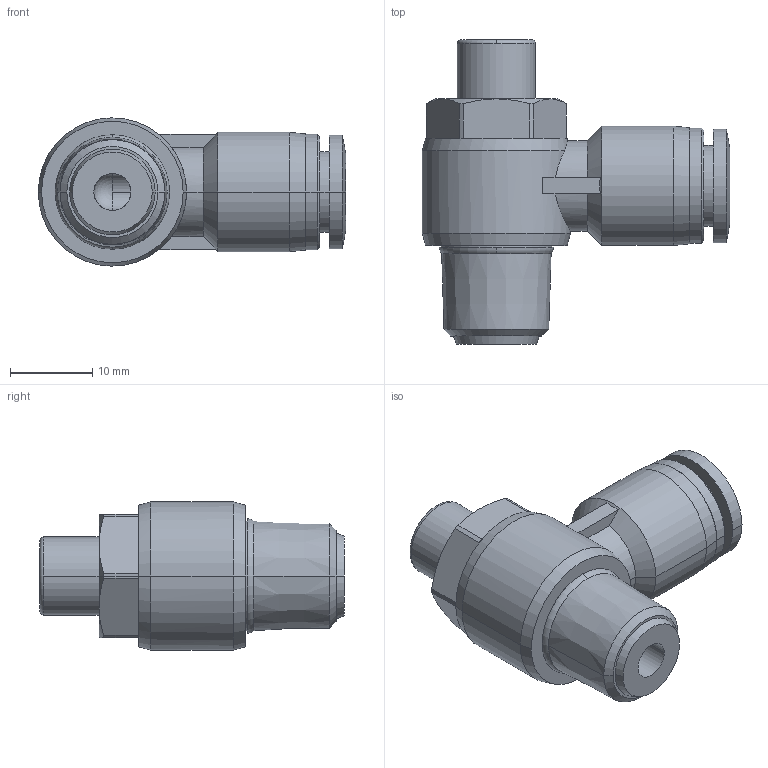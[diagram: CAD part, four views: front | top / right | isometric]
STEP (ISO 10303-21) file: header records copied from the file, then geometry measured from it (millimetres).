
FILE_DESCRIPTION (( 'STEP AP203' ), '1' );
FILE_NAME ('SCLF08-02.STEP', '2020-05-13T17:31:10', ( '' ), ( '' ), 'SwSTEP 2.0', 'SolidWorks 2019', '' );
FILE_SCHEMA (( 'CONFIG_CONTROL_DESIGN' ));
Length unit declared in the file: millimetre
Products named in the file (1): SCLF08-02
Bounding box: 37.35 x 37 x 18 mm (x, y, z)
Volume: 7589.9 mm3; surface area: 4353.5 mm2
Topology: 1 solids, 1 shells, 122 faces, 297 edges, 185 vertices
Faces by surface type: plane 45, cylinder 38, cone 32, torus 4, bspline 2, sphere 1
Entity records: 3935 total; most frequent: CARTESIAN_POINT 998, DIRECTION 632, ORIENTED_EDGE 588, EDGE_CURVE 294, AXIS2_PLACEMENT_3D 253, VERTEX_POINT 185, EDGE_LOOP 135, CIRCLE 132
